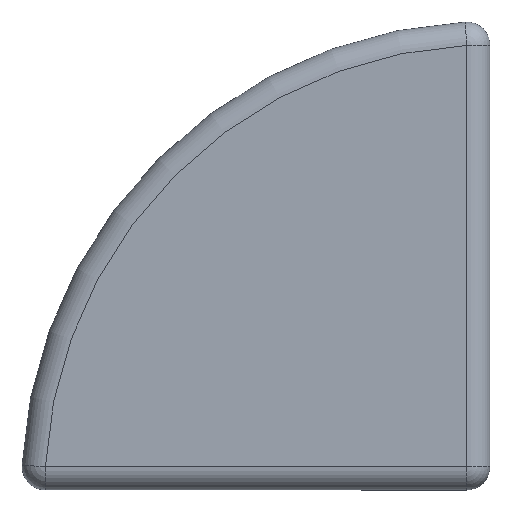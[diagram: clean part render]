
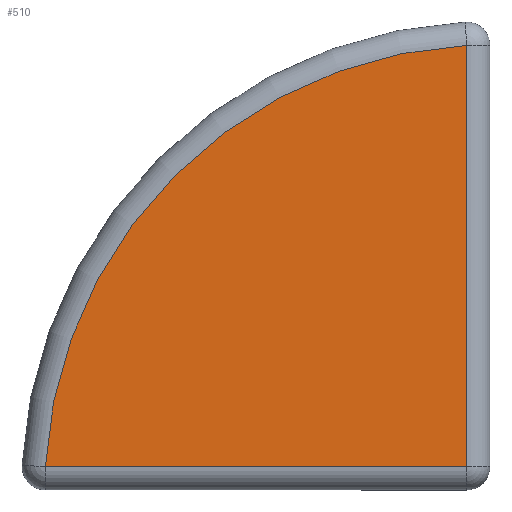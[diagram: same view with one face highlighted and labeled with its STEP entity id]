
A CAD part, front view. The second image highlights one B-rep face of the part: STEP entity #510.
In plain terms, the highlighted planar face has unit normal (0, -1, 0).
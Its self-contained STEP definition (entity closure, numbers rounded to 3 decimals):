
#28 = PLANE ( 'NONE',  #67 ) ;
#67 = AXIS2_PLACEMENT_3D ( 'NONE', #774, #702, #194 ) ;
#132 = VECTOR ( 'NONE', #969, 1000. ) ;
#136 = CARTESIAN_POINT ( 'NONE',  ( 20., -4.5, -20. ) ) ;
#194 = DIRECTION ( 'NONE',  ( 0., 0., 1. ) ) ;
#213 = CARTESIAN_POINT ( 'NONE',  ( 18., -4.5, -18. ) ) ;
#223 = DIRECTION ( 'NONE',  ( 0., 0., 1. ) ) ;
#396 = VERTEX_POINT ( 'NONE', #972 ) ;
#449 = LINE ( 'NONE', #213, #1066 ) ;
#510 = ADVANCED_FACE ( 'NONE', ( #661 ), #28, .F. ) ;
#525 = CIRCLE ( 'NONE', #936, 38. ) ;
#596 = ORIENTED_EDGE ( 'NONE', *, *, #909, .T. ) ;
#607 = LINE ( 'NONE', #803, #132 ) ;
#629 = EDGE_CURVE ( 'NONE', #396, #908, #607, .T. ) ;
#661 = FACE_OUTER_BOUND ( 'NONE', #982, .T. ) ;
#702 = DIRECTION ( 'NONE',  ( 0., 1., 0. ) ) ;
#718 = DIRECTION ( 'NONE',  ( 0., -1., 0. ) ) ;
#773 = VERTEX_POINT ( 'NONE', #1035 ) ;
#774 = CARTESIAN_POINT ( 'NONE',  ( 0., -4.5, 0. ) ) ;
#782 = EDGE_CURVE ( 'NONE', #908, #773, #525, .T. ) ;
#803 = CARTESIAN_POINT ( 'NONE',  ( 18., -4.5, 17.947 ) ) ;
#868 = CARTESIAN_POINT ( 'NONE',  ( 18., -4.5, 17.947 ) ) ;
#908 = VERTEX_POINT ( 'NONE', #868 ) ;
#909 = EDGE_CURVE ( 'NONE', #773, #396, #449, .T. ) ;
#936 = AXIS2_PLACEMENT_3D ( 'NONE', #136, #718, #223 ) ;
#968 = ORIENTED_EDGE ( 'NONE', *, *, #782, .T. ) ;
#969 = DIRECTION ( 'NONE',  ( 0., 0., 1. ) ) ;
#972 = CARTESIAN_POINT ( 'NONE',  ( 18., -4.5, -18. ) ) ;
#982 = EDGE_LOOP ( 'NONE', ( #990, #968, #596 ) ) ;
#990 = ORIENTED_EDGE ( 'NONE', *, *, #629, .T. ) ;
#1032 = DIRECTION ( 'NONE',  ( 1., 0., 0. ) ) ;
#1035 = CARTESIAN_POINT ( 'NONE',  ( -17.947, -4.5, -18. ) ) ;
#1066 = VECTOR ( 'NONE', #1032, 1000. ) ;
